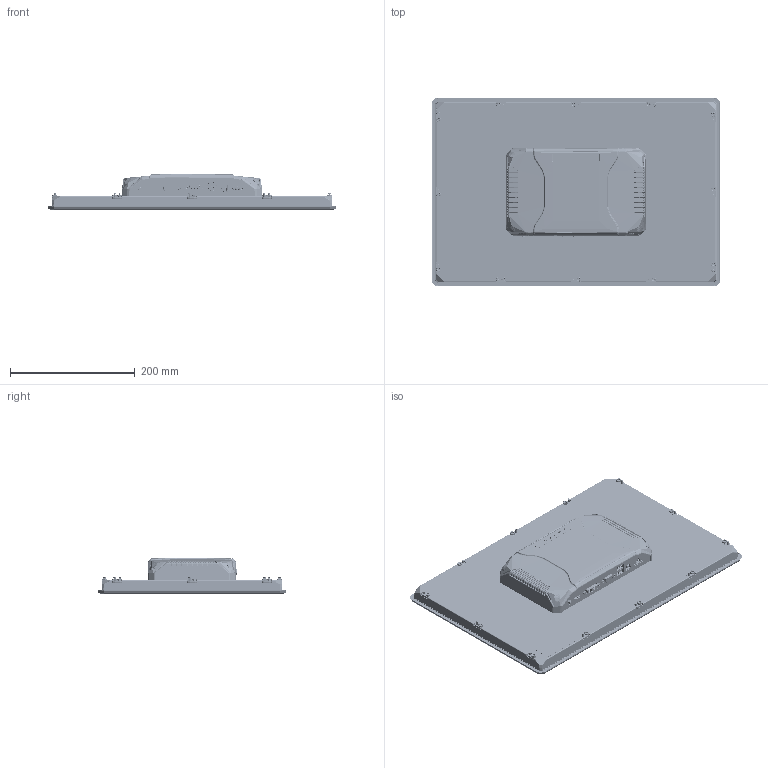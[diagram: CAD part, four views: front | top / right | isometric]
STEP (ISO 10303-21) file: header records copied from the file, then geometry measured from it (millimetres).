
FILE_DESCRIPTION (( 'STEP AP214' ), '1' );
FILE_NAME ('IDD22185.STEP', '2024-05-10T05:07:49', ( '' ), ( '' ), 'SwSTEP 2.0', 'SolidWorks 2018', '' );
FILE_SCHEMA (( 'AUTOMOTIVE_DESIGN' ));
Length unit declared in the file: millimetre
Products named in the file (1): IDD22185
Bounding box: 462.8 x 302.8 x 59.1 mm (x, y, z)
Topology: 0 solids, 868 shells, 20312 faces, 52389 edges, 33069 vertices
Faces by surface type: plane 9611, bspline 5512, cylinder 3971, torus 790, sphere 233, cone 195
Full cylindrical faces by diameter (mm): 1.5 x2, 2.2 x12, 3.2 x16, 3.5 x1, 4 x2, 4.5 x12
Entity records: 1063990 total; most frequent: CARTESIAN_POINT 393623, ORIENTED_EDGE 97630, DIRECTION 77086, EDGE_CURVE 51852, VERTEX_POINT 33046, LINE 31030, VECTOR 31030, AXIS2_PLACEMENT_3D 23028
